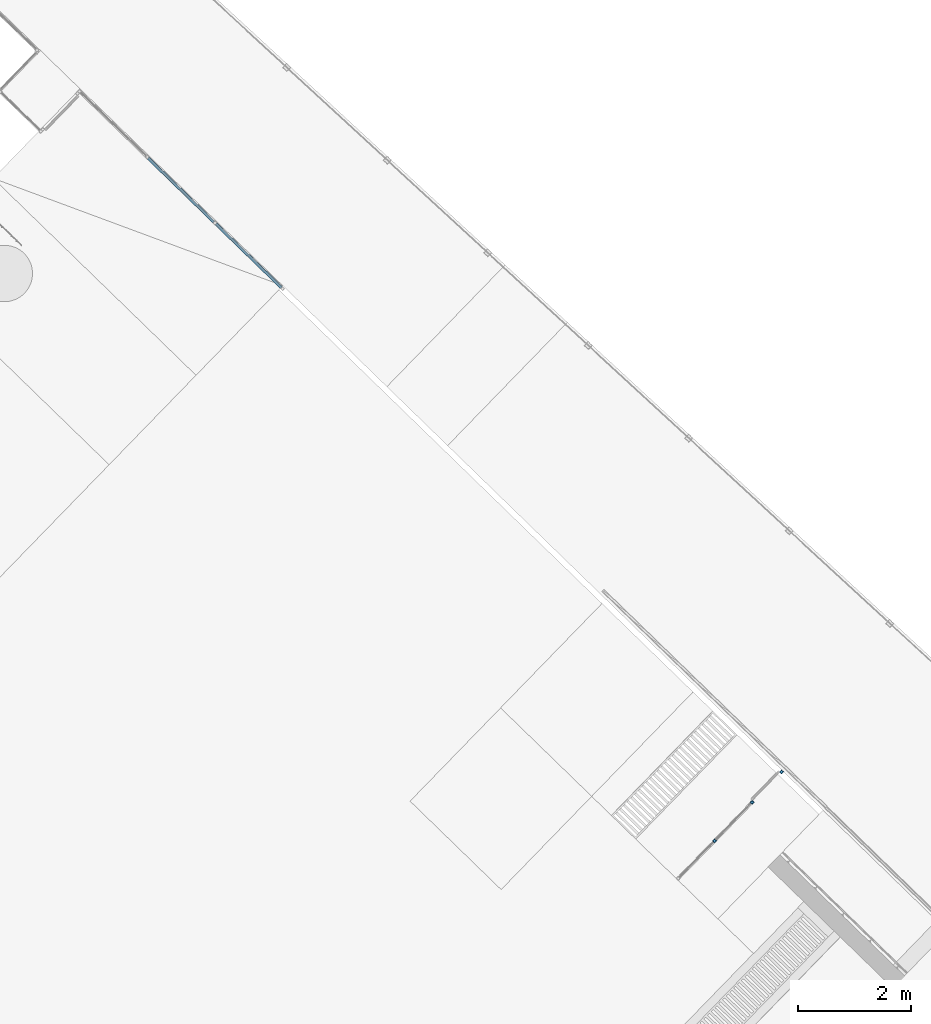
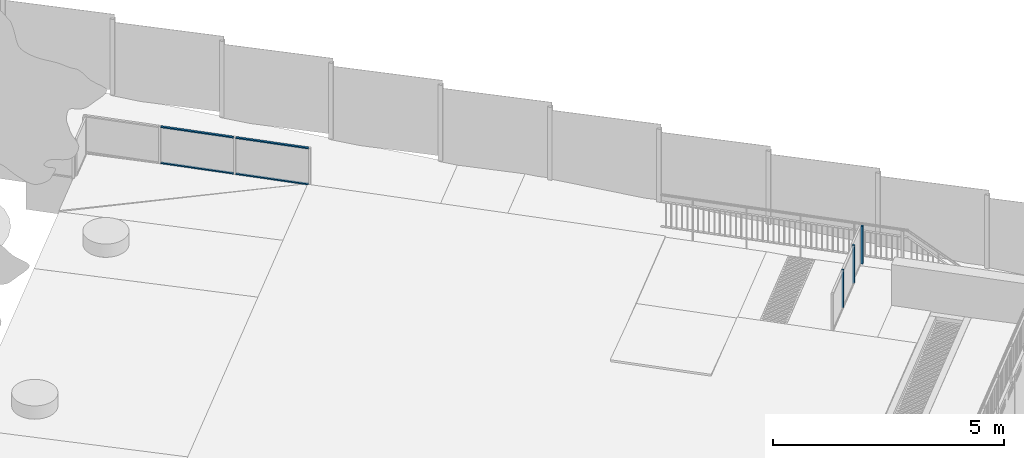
# One storey, part 6 of 37: 7 members, 2 elements without a shape of their own.
"""IFC2X3 building model written with IfcOpenShell, lengths in centimetres."""

import ifcopenshell
import ifcopenshell.guid

model = None  # the IFC model being written
_history = None  # IfcOwnerHistory: only IFC2X3 demands one
_inside = {}  # id of a spatial element -> (the spatial element, [elements in it])
_under = {}  # id of a project, library or spatial element -> (it, [spatial elements below it])
_declared = {}  # id of a project -> (the project, [libraries it declares])
_typed = {}  # id of a type object -> (the type object, [elements of that type])
_made_of = {}  # id of a material, layer set ... -> (it, [elements and type objects made of it])


def new_model(schema):
    """Start an empty IFC model of exactly this schema.

    Asked for "IFC4X3", IfcOpenShell would pick the latest addendum, in which some entities
    have other attributes; the version numbers below select the first issue.
    IFC2X3 requires an IfcOwnerHistory on every rooted entity: one is made here for all.
    """
    global model, _history
    if schema == "IFC4X3":
        model = ifcopenshell.file(schema_version=(4, 3, 0, 0))
    else:
        model = ifcopenshell.file(schema=schema)
    _inside.clear()
    _under.clear()
    _declared.clear()
    _typed.clear()
    _made_of.clear()
    _history = None
    if model.schema == "IFC2X3":
        org = make("IfcOrganization", Name="unknown")
        user = make(
            "IfcPersonAndOrganization",
            ThePerson=make("IfcPerson", FamilyName="unknown"),
            TheOrganization=org,
        )
        app = make(
            "IfcApplication",
            ApplicationDeveloper=org,
            Version="unknown",
            ApplicationFullName="unknown",
            ApplicationIdentifier="unknown",
        )
        _history = make(
            "IfcOwnerHistory",
            OwningUser=user,
            OwningApplication=app,
            ChangeAction="ADDED",
            CreationDate=0,
        )
    return model


def make(cls, **values):
    """One entity of the class cls with the attributes given. An attribute that is None is left unset."""
    return model.create_entity(
        cls, **{name: value for name, value in values.items() if value is not None}
    )


def entity(cls, *values):
    """Any entity or typed value of the class cls, its attributes in the order of the schema. None: left unset."""
    e = model.create_entity(cls)
    for i, value in enumerate(values):
        if value is not None:
            e[i] = value
    return e


def rooted(cls, **values):
    """An entity with a GlobalId (a new one), such as an element, a storey or a relation."""
    return make(cls, GlobalId=ifcopenshell.guid.new(), OwnerHistory=_history, **values)


def si_unit(unit_type, name, prefix=None):
    """IfcSIUnit, for example si_unit("LENGTHUNIT", "METRE", prefix="MILLI")."""
    return make("IfcSIUnit", UnitType=unit_type, Prefix=prefix, Name=name)


def converted_unit(unit_type, name, factor, base, dimensions=None, offset=None):
    """IfcConversionBasedUnit, such as the inch: factor (a typed value) times the base unit."""
    return make(
        "IfcConversionBasedUnit"
        if offset is None
        else "IfcConversionBasedUnitWithOffset",
        ConversionOffset=offset,
        Dimensions=None
        if dimensions is None
        else entity("IfcDimensionalExponents", *dimensions),
        UnitType=unit_type,
        Name=name,
        ConversionFactor=make(
            "IfcMeasureWithUnit", ValueComponent=factor, UnitComponent=base
        ),
    )


def derived_unit(unit_type, elements):
    """IfcDerivedUnit: a product of units, each with its exponent."""
    return make(
        "IfcDerivedUnit",
        Elements=[
            make("IfcDerivedUnitElement", Unit=unit, Exponent=power)
            for unit, power in elements
        ],
        UnitType=unit_type,
    )


def assignment(units):
    """IfcUnitAssignment: the units of a project."""
    return None if units is None else make("IfcUnitAssignment", Units=units)


def point(xyz):
    """IfcCartesianPoint."""
    return None if xyz is None else make("IfcCartesianPoint", Coordinates=xyz)


def direction(xyz):
    """IfcDirection."""
    return None if xyz is None else make("IfcDirection", DirectionRatios=xyz)


def frame(location, z_axis=None, x_axis=None):
    """IfcAxis2Placement3D, a coordinate frame: its origin and axes. An axis left out is left unset."""
    return make(
        "IfcAxis2Placement3D",
        Location=point(location),
        Axis=direction(z_axis),
        RefDirection=direction(x_axis),
    )


def frame_2d(location, x_axis=None):
    """IfcAxis2Placement2D, a coordinate frame in the plane: its origin and x axis."""
    return make(
        "IfcAxis2Placement2D", Location=point(location), RefDirection=direction(x_axis)
    )


def origin():
    """The frame at (0, 0, 0) with its axes left unset."""
    return frame((0.0, 0.0, 0.0))


def origin_2d_with_axis():
    """The frame at (0, 0) in the plane with the x axis (1, 0) written out."""
    return frame_2d((0.0, 0.0), x_axis=(1.0, 0.0))


def place(relative_to, where):
    """IfcLocalPlacement: puts the frame where relative to a parent placement (None: the world)."""
    return make(
        "IfcLocalPlacement", PlacementRelTo=relative_to, RelativePlacement=where
    )


def context(
    kind, dimensions, precision=None, world=None, true_north=None, identifier=None
):
    """IfcGeometricRepresentationContext, for example the 3D "Model" context."""
    return make(
        "IfcGeometricRepresentationContext",
        ContextIdentifier=identifier,
        ContextType=kind,
        CoordinateSpaceDimension=dimensions,
        Precision=precision,
        WorldCoordinateSystem=world,
        TrueNorth=true_north,
    )


def subcontext(parent, identifier, kind, view, scale=None):
    """IfcGeometricRepresentationSubContext, for example "Body" below "Model"."""
    return make(
        "IfcGeometricRepresentationSubContext",
        ContextIdentifier=identifier,
        ContextType=kind,
        ParentContext=parent,
        TargetScale=scale,
        TargetView=view,
    )


def project(units=None, contexts=None):
    """IfcProject with its units and contexts."""
    return rooted(
        "IfcProject",
        Name="project",
        RepresentationContexts=contexts,
        UnitsInContext=assignment(units),
    )


def spatial(cls, under=None, at=None, **own):
    """A site, building, storey or space (cls), placed at a placement, below another one or the project."""
    s = rooted(cls, ObjectPlacement=at, **own)
    if under is not None:
        _under.setdefault(under.id(), (under, []))[1].append(s)
    return s


def profile(cls, at=None, kind="AREA", **sizes):
    """A parametric profile (cls). Its sizes go by their IFC names, for example OverallWidth=200.0."""
    return make(cls, ProfileType=kind, Position=at, **sizes)


def rectangle(**sizes):
    """IfcRectangleProfileDef."""
    return profile("IfcRectangleProfileDef", **sizes)


def extrude(swept, where, along, depth):
    """IfcExtrudedAreaSolid: the profile swept, set in the frame where, extruded along a direction by depth."""
    return make(
        "IfcExtrudedAreaSolid",
        SweptArea=swept,
        Position=where,
        ExtrudedDirection=direction(along),
        Depth=depth,
    )


def shape(context_of_items, identifier, shape_type, items):
    """IfcShapeRepresentation: the items that make up one representation, for example the "Body"."""
    return make(
        "IfcShapeRepresentation",
        ContextOfItems=context_of_items,
        RepresentationIdentifier=identifier,
        RepresentationType=shape_type,
        Items=items,
    )


def material(Name=None, Category=None):
    """IfcMaterial."""
    return make("IfcMaterial", Name=Name, Category=Category)


def made_of(thing, what):
    """Note that an element or type object is made of a material, layer set ...; save() writes the relation."""
    if what is not None:
        _made_of.setdefault(what.id(), (what, []))[1].append(thing)
    return thing


def type_object(cls, material=None, **own):
    """A type object (cls), such as IfcWallType, which elements share."""
    return made_of(rooted(cls, **own), material)


def element(
    cls,
    number,
    at=None,
    inside=None,
    cuts=None,
    type_object=None,
    material=None,
    context=None,
    identifier="Body",
    shape_type=None,
    held_by="IfcProductDefinitionShape",
    body=None,
    shapes=None,
    **own,
):
    """One element of the class cls, such as IfcWall. Its Tag is "e" and its number.

    at: its placement. inside: the storey or other place that contains it. cuts: it is an
    opening in that element (IfcRelVoidsElement). A single representation is given by context,
    identifier, shape_type and body (its items); several are given by shapes. held_by: the class
    of the entity that holds the representations. save() writes the other relations.
    """
    e = rooted(cls, Tag="e%d" % number, ObjectPlacement=at, **own)
    if body is not None:
        shapes = [shape(context, identifier, shape_type, body)]
    if shapes is not None:
        e.Representation = make(held_by, Representations=shapes)
    if inside is not None:
        _inside.setdefault(inside.id(), (inside, []))[1].append(e)
    if cuts is not None:
        rooted(
            "IfcRelVoidsElement", RelatingBuildingElement=cuts, RelatedOpeningElement=e
        )
    if type_object is not None:
        _typed.setdefault(type_object.id(), (type_object, []))[1].append(e)
    return made_of(e, material)


def aggregate(whole, parts):
    """IfcRelAggregates: a whole, such as a stair, and the parts it consists of."""
    return rooted("IfcRelAggregates", RelatingObject=whole, RelatedObjects=parts)


def save(model, path):
    """Write the relations noted so far, then the file.

    IfcRelAggregates (storeys below a building ...), IfcRelContainedInSpatialStructure (elements
    in a storey), IfcRelDefinesByType, IfcRelAssociatesMaterial and IfcRelDeclares: one each for
    every whole, place, type object, material and project.
    """
    for whole, parts in _under.values():
        aggregate(whole, parts)
    for where, things in _inside.values():
        rooted(
            "IfcRelContainedInSpatialStructure",
            RelatedElements=things,
            RelatingStructure=where,
        )
    for kind, things in _typed.values():
        rooted("IfcRelDefinesByType", RelatedObjects=things, RelatingType=kind)
    for what, things in _made_of.values():
        rooted("IfcRelAssociatesMaterial", RelatedObjects=things, RelatingMaterial=what)
    for by, libraries in _declared.values():
        rooted("IfcRelDeclares", RelatingContext=by, RelatedDefinitions=libraries)
    model.write(path)


model = new_model("IFC2X3")

# Units and contexts
model_context = context("Model", 3, precision=0.001, world=origin(), true_north=direction((0.717475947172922, 0.696583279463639)))
body_context = subcontext(model_context, "Body", "Model", "MODEL_VIEW")
ifc_project = project(units=[si_unit("LENGTHUNIT", "METRE", prefix="CENTI"), si_unit("AREAUNIT", "SQUARE_METRE"), si_unit("VOLUMEUNIT", "CUBIC_METRE"), converted_unit("PLANEANGLEUNIT", "DEGREE", entity("IfcRatioMeasure", 0.0174532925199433), si_unit("PLANEANGLEUNIT", "RADIAN"), dimensions=[0, 0, 0, 0, 0, 0, 0]), si_unit("MASSUNIT", "GRAM", prefix="KILO"), derived_unit("MASSDENSITYUNIT", [(si_unit("MASSUNIT", "GRAM", prefix="KILO"), 1), (si_unit("LENGTHUNIT", "METRE"), -3)]), si_unit("TIMEUNIT", "SECOND"), si_unit("FREQUENCYUNIT", "HERTZ"), si_unit("THERMODYNAMICTEMPERATUREUNIT", "DEGREE_CELSIUS"), derived_unit("THERMALTRANSMITTANCEUNIT", [(si_unit("MASSUNIT", "GRAM", prefix="KILO"), 1), (si_unit("THERMODYNAMICTEMPERATUREUNIT", "KELVIN"), -1), (si_unit("TIMEUNIT", "SECOND"), -3)]), derived_unit("VOLUMETRICFLOWRATEUNIT", [(si_unit("LENGTHUNIT", "METRE"), 3), (si_unit("TIMEUNIT", "SECOND"), -1)]), si_unit("ELECTRICCURRENTUNIT", "AMPERE"), si_unit("ELECTRICVOLTAGEUNIT", "VOLT"), si_unit("POWERUNIT", "WATT"), si_unit("FORCEUNIT", "NEWTON", prefix="KILO"), si_unit("ILLUMINANCEUNIT", "LUX"), si_unit("LUMINOUSFLUXUNIT", "LUMEN"), si_unit("LUMINOUSINTENSITYUNIT", "CANDELA"), derived_unit("USERDEFINED", [(si_unit("MASSUNIT", "GRAM", prefix="KILO"), -1), (si_unit("LENGTHUNIT", "METRE"), -2), (si_unit("TIMEUNIT", "SECOND"), 3), (si_unit("LUMINOUSFLUXUNIT", "LUMEN"), 1)]), derived_unit("LINEARVELOCITYUNIT", [(si_unit("LENGTHUNIT", "METRE"), 1), (si_unit("TIMEUNIT", "SECOND"), -1)]), si_unit("PRESSUREUNIT", "PASCAL"), derived_unit("USERDEFINED", [(si_unit("LENGTHUNIT", "METRE"), -2), (si_unit("MASSUNIT", "GRAM", prefix="KILO"), 1), (si_unit("TIMEUNIT", "SECOND"), -2)])], contexts=[model_context])

# Site, building, storey
site_placement = place(None, frame((0.0, 0.0, 0.0), z_axis=(0.0, 0.0, 1.0), x_axis=(0.696583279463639, 0.717475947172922, 0.0)))
site = spatial("IfcSite", under=ifc_project, at=site_placement, Name="Surface", CompositionType="ELEMENT")
building_placement = place(site_placement, origin())
building = spatial("IfcBuilding", under=site, at=building_placement, CompositionType="ELEMENT")
storey_placement = place(building_placement, origin())
storey = spatial("IfcBuildingStorey", under=building, at=storey_placement, Name="Nivel 0.00", CompositionType="ELEMENT", Elevation=0.0)

# Curtain wall, members
curtain_wall_type = type_object("IfcCurtainWallType", Name="Curtain Wall:REJA_BAJA_100mm", PredefinedType="NOTDEFINED")
curtain_wall_1_placement = place(storey_placement, origin())
curtain_wall_1 = element("IfcCurtainWall", 1, at=curtain_wall_1_placement, inside=storey, type_object=curtain_wall_type, Name="Curtain Wall:REJA_BAJA_100mm", ObjectType="Curtain Wall:REJA_BAJA_100mm")
ifc_material = material(Name="Aluminum")
member_1_placement = place(curtain_wall_1_placement, origin())
member_1 = element("IfcMember", 2, at=member_1_placement, material=ifc_material, Name="Curtain Wall:REJA_BAJA_100mm", ObjectType="Curtain Wall:REJA_BAJA_100mm", context=body_context, shape_type="SweptSolid", body=[
    extrude(rectangle(XDim=4.99999999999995, YDim=5.00000000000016, at=frame_2d((-1.08357767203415e-13, 0.0), x_axis=(1.0, 0.0))), frame((1798.05257456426, -1156.74407068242, 252.0), z_axis=(0.0, 0.0, -1.0), x_axis=(-1.0, 0.0, 0.0)), (0.0, 0.0, 1.0), 100.0),
])
member_2_placement = place(curtain_wall_1_placement, origin())
member_2 = element("IfcMember", 3, at=member_2_placement, material=ifc_material, Name="Curtain Wall:REJA_BAJA_100mm", ObjectType="Curtain Wall:REJA_BAJA_100mm", context=body_context, shape_type="SweptSolid", body=[
    extrude(rectangle(XDim=5.00000000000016, YDim=5.00000000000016, at=origin_2d_with_axis()), frame((1723.13510433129, -1156.74407068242, 152.0), z_axis=(0.0, 0.0, 1.0), x_axis=(-1.0, 0.0, 0.0)), (0.0, 0.0, 1.0), 100.0),
])
member_3_placement = place(curtain_wall_1_placement, origin())
member_3 = element("IfcMember", 4, at=member_3_placement, material=ifc_material, Name="Curtain Wall:REJA_BAJA_100mm", ObjectType="Curtain Wall:REJA_BAJA_100mm", context=body_context, shape_type="SweptSolid", body=[
    extrude(rectangle(XDim=5.00000000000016, YDim=5.00000000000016, at=origin_2d_with_axis()), frame((1627.7176341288, -1156.74407068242, 152.0), z_axis=(0.0, 0.0, 1.0), x_axis=(-1.0, 0.0, 0.0)), (0.0, 0.0, 1.0), 100.0),
])
aggregate(curtain_wall_1, [member_1, member_2, member_3])

curtain_wall_2_placement = place(storey_placement, origin())
curtain_wall_2 = element("IfcCurtainWall", 5, at=curtain_wall_2_placement, inside=storey, type_object=curtain_wall_type, Name="Curtain Wall:REJA_BAJA_100mm", ObjectType="Curtain Wall:REJA_BAJA_100mm")
member_4_placement = place(curtain_wall_2_placement, origin())
member_4 = element("IfcMember", 6, at=member_4_placement, material=ifc_material, Name="Curtain Wall:REJA_BAJA_100mm", ObjectType="Curtain Wall:REJA_BAJA_100mm", context=body_context, shape_type="SweptSolid", body=[
    extrude(rectangle(XDim=3.00000000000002, YDim=5.00000000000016, at=frame_2d((2.70894418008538e-14, 0.0), x_axis=(1.0, 0.0))), frame((1796.6277064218, 76.6492328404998, 246.5), z_axis=(0.0, 1.0, 0.0), x_axis=(0.0, 0.0, -1.0)), (0.0, 0.0, 1.0), 162.33333335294),
])
member_5_placement = place(curtain_wall_2_placement, origin())
member_5 = element("IfcMember", 7, at=member_5_placement, material=ifc_material, Name="Curtain Wall:REJA_BAJA_100mm", ObjectType="Curtain Wall:REJA_BAJA_100mm", context=body_context, shape_type="SweptSolid", body=[
    extrude(rectangle(XDim=2.99999999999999, YDim=5.00000000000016, at=frame_2d((-1.35447209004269e-14, 0.0), x_axis=(1.0, 0.0))), frame((1796.6277064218, 406.3158995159, 151.5), z_axis=(0.0, -1.0, 0.0), x_axis=(0.0, 0.0, -1.0)), (0.0, 0.0, 1.0), 162.33333335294),
])
member_6_placement = place(curtain_wall_2_placement, origin())
member_6 = element("IfcMember", 8, at=member_6_placement, material=ifc_material, Name="Curtain Wall:REJA_BAJA_100mm", ObjectType="Curtain Wall:REJA_BAJA_100mm", context=body_context, shape_type="SweptSolid", body=[
    extrude(rectangle(XDim=3.00000000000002, YDim=5.00000000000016, at=frame_2d((2.70894418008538e-14, 0.0), x_axis=(1.0, 0.0))), frame((1796.6277064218, 243.98256619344, 246.5), z_axis=(0.0, 1.0, 0.0), x_axis=(0.0, 0.0, -1.0)), (0.0, 0.0, 1.0), 162.33333335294),
])
member_7_placement = place(curtain_wall_2_placement, origin())
member_7 = element("IfcMember", 9, at=member_7_placement, material=ifc_material, Name="Curtain Wall:REJA_BAJA_100mm", ObjectType="Curtain Wall:REJA_BAJA_100mm", context=body_context, shape_type="SweptSolid", body=[
    extrude(rectangle(XDim=2.99999999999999, YDim=5.00000000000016, at=frame_2d((-1.35447209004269e-14, 2.16715534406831e-13), x_axis=(1.0, 0.0))), frame((1796.6277064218, 238.98256619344, 151.5), z_axis=(0.0, -1.0, 0.0), x_axis=(0.0, 0.0, -1.0)), (0.0, 0.0, 1.0), 162.33333335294),
])
aggregate(curtain_wall_2, [member_4, member_5, member_6, member_7])

save(model, "model.ifc")
